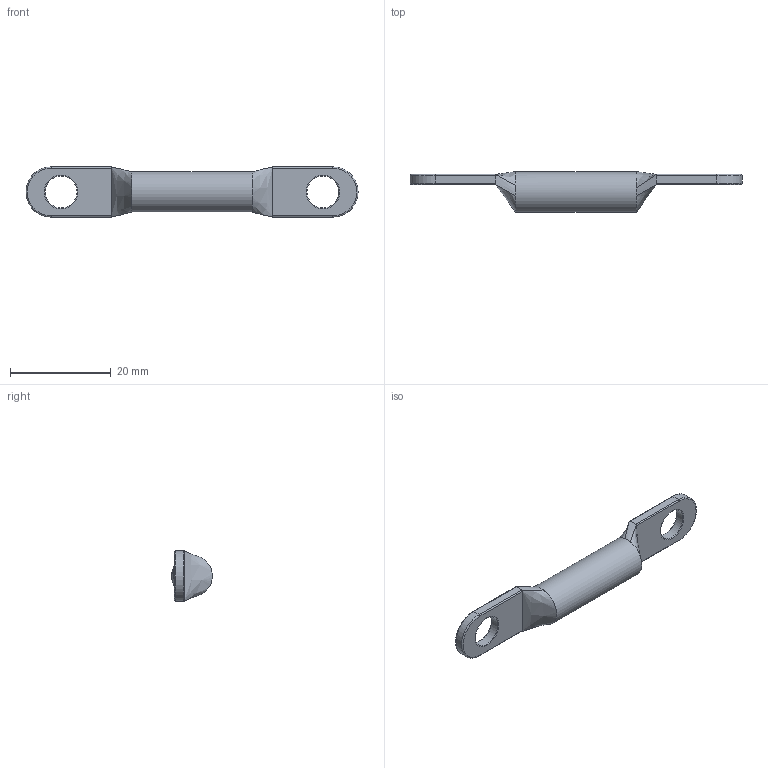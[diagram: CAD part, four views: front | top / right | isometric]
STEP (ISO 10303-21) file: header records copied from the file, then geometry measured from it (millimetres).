
FILE_DESCRIPTION(/* description */ (''),/* implementation_level */ '2;1');
FILE_NAME(/* name */ 'Visor_Bar_V3.step',/* time_stamp */ '2023-02-20T18:42:13-06:00',/* author */ (''),/* organization */ (''),/* preprocessor_version */ 'ST-DEVELOPER v19.2',/* originating_system */ 'Autodesk Translation Framework v11.17.0.187',/* authorisation */ '');
FILE_SCHEMA (('AUTOMOTIVE_DESIGN { 1 0 10303 214 3 1 1 }'));
Length unit declared in the file: millimetre
Products named in the file (1): Sun_Visor_Bar_1.0
Bounding box: 66 x 8.1 x 10 mm (x, y, z)
Volume: 2041.9 mm3; surface area: 1567.9 mm2
Topology: 1 solids, 1 shells, 37 faces, 109 edges, 74 vertices
Faces by surface type: cylinder 13, torus 8, plane 8, bspline 8
Full cylindrical faces by diameter (mm): 6.35 x2, 8.12 x1
Entity records: 1662 total; most frequent: CARTESIAN_POINT 633, ORIENTED_EDGE 218, DIRECTION 203, EDGE_CURVE 109, AXIS2_PLACEMENT_3D 80, VERTEX_POINT 74, CIRCLE 50, LINE 43
